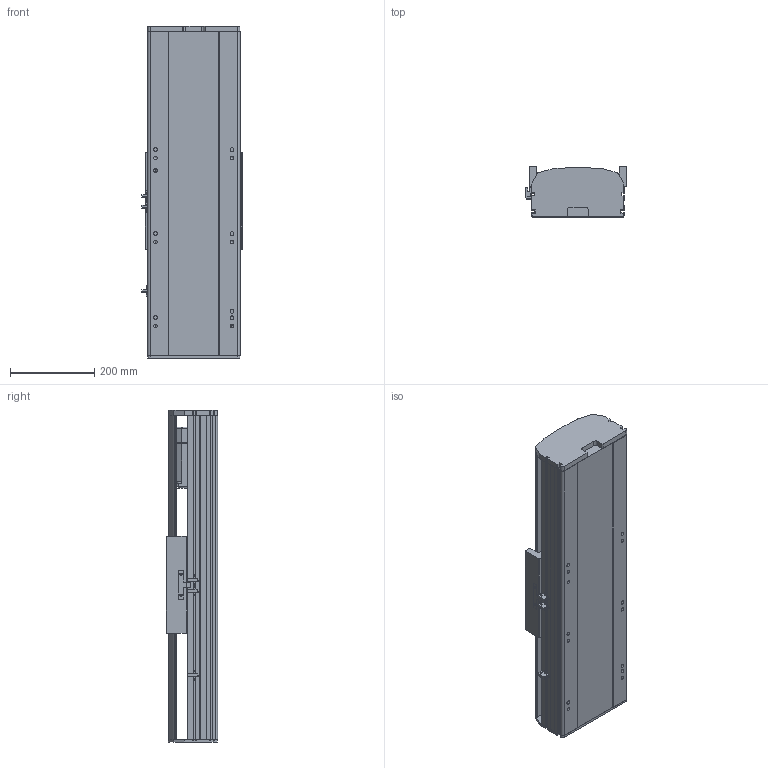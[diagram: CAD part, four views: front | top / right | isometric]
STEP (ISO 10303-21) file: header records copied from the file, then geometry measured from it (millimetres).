
FILE_DESCRIPTION (( 'STEP AP214' ), '1' );
FILE_NAME ('RTH22-XX-200-B-M75-C4.STEP', '2025-10-24T10:26:16', ( 'Microsoft' ), ( 'Microsoft' ), 'SwSTEP 2.0', 'SolidWorks 2018', '' );
FILE_SCHEMA (( 'AUTOMOTIVE_DESIGN' ));
Length unit declared in the file: millimetre
Products named in the file (9): N_RTH22-B-007奻裔^RTH22-XX-XX-B-M75-C4; N_RTH22-B-008萇儂啣^RTH22-XX-XX-B-M75-C4; N_750W萇儂^RTH22-XX-XX-B-M75-C4; N_RTH22-GY-001耜裔^RTH22-XX-XX-B-M75-C4; N_RTH22-E-004-SFS25賑釱^RTH22-XX-XX-B-M75-C4; N_RTH22-B-011菁釱^RTH22-XX-XX-B-M75-C4; N_RTH22-GY-013外置感应片^RTH22-XX-XX-B-M75-C4; N_OMRON EE-SX672 传感器^RTH22-XX-XX-B-M75-C4; RTH22-XX-200-B-M75-C4
Assembly tree (10 placements, depth 2):
  RTH22-XX-200-B-M75-C4
    N_RTH22-B-011菁釱^RTH22-XX-XX-B-M75-C4
    N_RTH22-GY-001耜裔^RTH22-XX-XX-B-M75-C4
    N_750W萇儂^RTH22-XX-XX-B-M75-C4
    N_RTH22-B-008萇儂啣^RTH22-XX-XX-B-M75-C4
    N_RTH22-B-007奻裔^RTH22-XX-XX-B-M75-C4
    N_OMRON EE-SX672 传感器^RTH22-XX-XX-B-M75-C4  x3
    N_RTH22-GY-013外置感应片^RTH22-XX-XX-B-M75-C4
    N_RTH22-E-004-SFS25賑釱^RTH22-XX-XX-B-M75-C4
Bounding box: 238.5 x 122 x 790 mm (x, y, z)
Volume: 12142554.8 mm3; surface area: 1286722.2 mm2
Topology: 10 solids, 10 shells, 1461 faces, 4000 edges, 2593 vertices
Faces by surface type: plane 746, cylinder 394, bspline 279, cone 42
Entity records: 35459 total; most frequent: CARTESIAN_POINT 11253, ORIENTED_EDGE 5008, DIRECTION 4622, EDGE_CURVE 2504, VERTEX_POINT 1629, LINE 1578, VECTOR 1578, AXIS2_PLACEMENT_3D 1522
